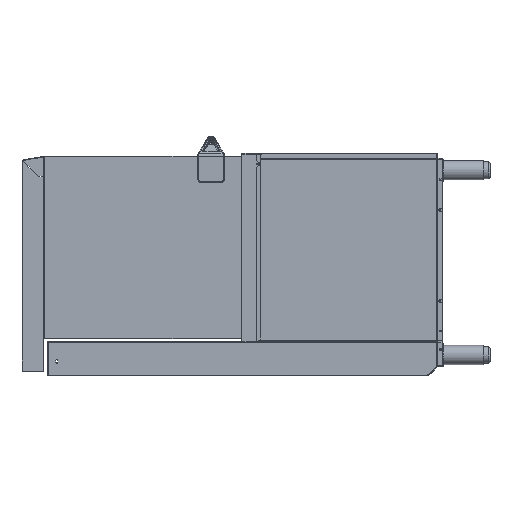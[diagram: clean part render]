
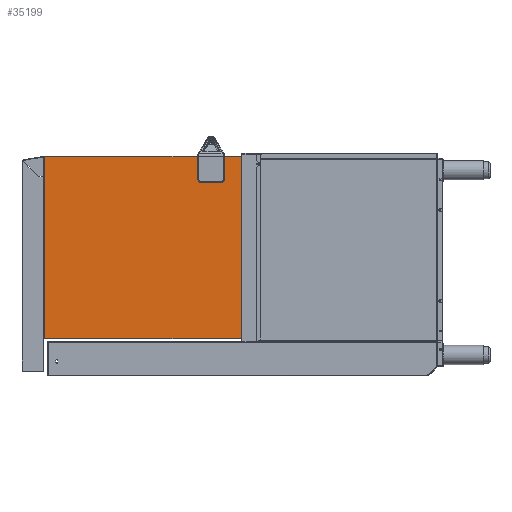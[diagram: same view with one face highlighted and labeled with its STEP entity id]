
A CAD part, left-side view. The second image highlights one B-rep face of the part: STEP entity #35199.
In plain terms, the highlighted planar face has unit normal (-1, 0, 0).
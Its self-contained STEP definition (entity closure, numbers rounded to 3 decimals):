
#2536 = ORIENTED_EDGE ( 'NONE', *, *, #76650, .T. ) ;
#4416 = EDGE_LOOP ( 'NONE', ( #2536, #29096 ) ) ;
#5409 = CARTESIAN_POINT ( 'NONE',  ( -300.2, 342.5, 1. ) ) ;
#5450 = ORIENTED_EDGE ( 'NONE', *, *, #77820, .T. ) ;
#5496 = DIRECTION ( 'NONE',  ( 0., 0., -1. ) ) ;
#5895 = CARTESIAN_POINT ( 'NONE',  ( -300.2, 242.482, 81.5 ) ) ;
#6038 = CARTESIAN_POINT ( 'NONE',  ( -300.2, 342.5, 1. ) ) ;
#6150 = FACE_BOUND ( 'NONE', #77677, .T. ) ;
#6318 = ORIENTED_EDGE ( 'NONE', *, *, #76645, .T. ) ;
#6690 = EDGE_LOOP ( 'NONE', ( #41492, #78496 ) ) ;
#6788 = FACE_BOUND ( 'NONE', #12348, .T. ) ;
#6863 = FACE_BOUND ( 'NONE', #6690, .T. ) ;
#6925 = FACE_BOUND ( 'NONE', #4416, .T. ) ;
#7006 = FACE_OUTER_BOUND ( 'NONE', #50923, .T. ) ;
#7241 = VERTEX_POINT ( 'NONE', #80806 ) ;
#7703 = AXIS2_PLACEMENT_3D ( 'NONE', #45130, #45047, #44927 ) ;
#9492 = VERTEX_POINT ( 'NONE', #59310 ) ;
#11157 = CIRCLE ( 'NONE', #7703, 7.5 ) ;
#11629 = VERTEX_POINT ( 'NONE', #52185 ) ;
#11929 = AXIS2_PLACEMENT_3D ( 'NONE', #58004, #57825, #53192 ) ;
#12348 = EDGE_LOOP ( 'NONE', ( #6318, #73065 ) ) ;
#13386 = DIRECTION ( 'NONE',  ( 0., 0., -1. ) ) ;
#13473 = DIRECTION ( 'NONE',  ( 1., 0., 0. ) ) ;
#13672 = PLANE ( 'NONE',  #46553 ) ;
#13696 = CARTESIAN_POINT ( 'NONE',  ( -300.2, 342.5, 601.5 ) ) ;
#16587 = CARTESIAN_POINT ( 'NONE',  ( -300.2, 177.482, 24. ) ) ;
#17739 = DIRECTION ( 'NONE',  ( 0., 0., -1. ) ) ;
#17937 = DIRECTION ( 'NONE',  ( 1., 0., 0. ) ) ;
#18023 = CARTESIAN_POINT ( 'NONE',  ( -300.2, 242.482, 74. ) ) ;
#20665 = VERTEX_POINT ( 'NONE', #25254 ) ;
#22225 = VERTEX_POINT ( 'NONE', #42655 ) ;
#22485 = DIRECTION ( 'NONE',  ( 0., 0., -1. ) ) ;
#23032 = CARTESIAN_POINT ( 'NONE',  ( -300.2, 177.482, 31.5 ) ) ;
#23116 = ORIENTED_EDGE ( 'NONE', *, *, #77023, .T. ) ;
#24515 = CARTESIAN_POINT ( 'NONE',  ( -300.2, -342.5, 1. ) ) ;
#25254 = CARTESIAN_POINT ( 'NONE',  ( -300.2, -340.5, 2. ) ) ;
#27615 = DIRECTION ( 'NONE',  ( 0., 1., 0. ) ) ;
#27824 = CARTESIAN_POINT ( 'NONE',  ( -300.2, -340.5, 601.5 ) ) ;
#28062 = VECTOR ( 'NONE', #39682, 1000. ) ;
#28067 = DIRECTION ( 'NONE',  ( 0., 0., -1. ) ) ;
#28133 = CARTESIAN_POINT ( 'NONE',  ( -300.2, -340.5, 601.3 ) ) ;
#28279 = CARTESIAN_POINT ( 'NONE',  ( -300.2, -340.5, 601.5 ) ) ;
#28560 = LINE ( 'NONE', #39901, #28062 ) ;
#28877 = ORIENTED_EDGE ( 'NONE', *, *, #77360, .T. ) ;
#29096 = ORIENTED_EDGE ( 'NONE', *, *, #32860, .T. ) ;
#30206 = EDGE_CURVE ( 'NONE', #69650, #7241, #61163, .T. ) ;
#31058 = EDGE_CURVE ( 'NONE', #9492, #37305, #11157, .T. ) ;
#32271 = ORIENTED_EDGE ( 'NONE', *, *, #65740, .F. ) ;
#32860 = EDGE_CURVE ( 'NONE', #22225, #67593, #82429, .T. ) ;
#33325 = EDGE_CURVE ( 'NONE', #61411, #58622, #69413, .T. ) ;
#35199 = ADVANCED_FACE ( 'NONE', ( #6863, #6788, #6925, #6150, #7006 ), #13672, .F. ) ;
#36927 = CARTESIAN_POINT ( 'NONE',  ( -300.2, 342.5, 2. ) ) ;
#37305 = VERTEX_POINT ( 'NONE', #16587 ) ;
#37923 = CARTESIAN_POINT ( 'NONE',  ( -300.2, 177.482, 81.5 ) ) ;
#39254 = VERTEX_POINT ( 'NONE', #36927 ) ;
#39682 = DIRECTION ( 'NONE',  ( 0., 1., 0. ) ) ;
#39816 = ORIENTED_EDGE ( 'NONE', *, *, #77851, .T. ) ;
#39901 = CARTESIAN_POINT ( 'NONE',  ( -300.2, -342.5, 2. ) ) ;
#40268 = CARTESIAN_POINT ( 'NONE',  ( -300.2, 242.482, 24. ) ) ;
#41185 = DIRECTION ( 'NONE',  ( 0., 0., 1. ) ) ;
#41263 = CARTESIAN_POINT ( 'NONE',  ( -300.2, -340.5, 2. ) ) ;
#41492 = ORIENTED_EDGE ( 'NONE', *, *, #76538, .T. ) ;
#42655 = CARTESIAN_POINT ( 'NONE',  ( -300.2, 242.482, 39. ) ) ;
#44140 = DIRECTION ( 'NONE',  ( 0., 0., -1. ) ) ;
#44246 = DIRECTION ( 'NONE',  ( 1., 0., 0. ) ) ;
#44319 = CARTESIAN_POINT ( 'NONE',  ( -300.2, 242.482, 74. ) ) ;
#44927 = DIRECTION ( 'NONE',  ( 0., 0., -1. ) ) ;
#45047 = DIRECTION ( 'NONE',  ( 1., 0., 0. ) ) ;
#45130 = CARTESIAN_POINT ( 'NONE',  ( -300.2, 177.482, 31.5 ) ) ;
#46553 = AXIS2_PLACEMENT_3D ( 'NONE', #24515, #13473, #13386 ) ;
#50103 = CARTESIAN_POINT ( 'NONE',  ( -300.2, 242.482, 66.5 ) ) ;
#50923 = EDGE_LOOP ( 'NONE', ( #51000, #81378, #28877, #5450, #39816, #32271 ) ) ;
#51000 = ORIENTED_EDGE ( 'NONE', *, *, #77120, .T. ) ;
#52185 = CARTESIAN_POINT ( 'NONE',  ( -300.2, -340.5, 601.5 ) ) ;
#52835 = DIRECTION ( 'NONE',  ( 0., 0., -1. ) ) ;
#52863 = DIRECTION ( 'NONE',  ( 1., 0., 0. ) ) ;
#52941 = CARTESIAN_POINT ( 'NONE',  ( -300.2, 242.482, 31.5 ) ) ;
#53192 = DIRECTION ( 'NONE',  ( 0., 0., -1. ) ) ;
#54243 = VECTOR ( 'NONE', #5496, 1000. ) ;
#54694 = VECTOR ( 'NONE', #22485, 1000. ) ;
#54762 = LINE ( 'NONE', #5409, #54243 ) ;
#54855 = LINE ( 'NONE', #6038, #54694 ) ;
#57825 = DIRECTION ( 'NONE',  ( 1., 0., 0. ) ) ;
#58004 = CARTESIAN_POINT ( 'NONE',  ( -300.2, 177.482, 74. ) ) ;
#58622 = VERTEX_POINT ( 'NONE', #50103 ) ;
#58963 = VECTOR ( 'NONE', #27615, 1000. ) ;
#59093 = VECTOR ( 'NONE', #28067, 1000. ) ;
#59310 = CARTESIAN_POINT ( 'NONE',  ( -300.2, 177.482, 39. ) ) ;
#59325 = LINE ( 'NONE', #27824, #58963 ) ;
#59944 = LINE ( 'NONE', #28279, #59093 ) ;
#61163 = CIRCLE ( 'NONE', #11929, 7.5 ) ;
#61411 = VERTEX_POINT ( 'NONE', #5895 ) ;
#62096 = ORIENTED_EDGE ( 'NONE', *, *, #33325, .T. ) ;
#62173 = DIRECTION ( 'NONE',  ( 0., 0., -1. ) ) ;
#62283 = DIRECTION ( 'NONE',  ( 1., 0., 0. ) ) ;
#62300 = CARTESIAN_POINT ( 'NONE',  ( -300.2, 242.482, 31.5 ) ) ;
#62578 = DIRECTION ( 'NONE',  ( 0., 0., -1. ) ) ;
#62588 = DIRECTION ( 'NONE',  ( 1., 0., 0. ) ) ;
#62704 = VERTEX_POINT ( 'NONE', #13696 ) ;
#62883 = VECTOR ( 'NONE', #41185, 1000. ) ;
#63042 = LINE ( 'NONE', #41263, #62883 ) ;
#63658 = CIRCLE ( 'NONE', #65498, 7.5 ) ;
#65498 = AXIS2_PLACEMENT_3D ( 'NONE', #44319, #44246, #44140 ) ;
#65740 = EDGE_CURVE ( 'NONE', #20665, #39254, #28560, .T. ) ;
#66956 = AXIS2_PLACEMENT_3D ( 'NONE', #62300, #62283, #62173 ) ;
#67104 = AXIS2_PLACEMENT_3D ( 'NONE', #23032, #62588, #62578 ) ;
#67445 = CIRCLE ( 'NONE', #67104, 7.5 ) ;
#67531 = CIRCLE ( 'NONE', #66956, 7.5 ) ;
#67568 = AXIS2_PLACEMENT_3D ( 'NONE', #73839, #73822, #73604 ) ;
#67593 = VERTEX_POINT ( 'NONE', #40268 ) ;
#69100 = CIRCLE ( 'NONE', #67568, 7.5 ) ;
#69413 = CIRCLE ( 'NONE', #76901, 7.5 ) ;
#69650 = VERTEX_POINT ( 'NONE', #37923 ) ;
#70979 = VERTEX_POINT ( 'NONE', #74846 ) ;
#71971 = VERTEX_POINT ( 'NONE', #28133 ) ;
#73065 = ORIENTED_EDGE ( 'NONE', *, *, #31058, .T. ) ;
#73604 = DIRECTION ( 'NONE',  ( 0., 0., -1. ) ) ;
#73822 = DIRECTION ( 'NONE',  ( 1., 0., 0. ) ) ;
#73839 = CARTESIAN_POINT ( 'NONE',  ( -300.2, 177.482, 74. ) ) ;
#74846 = CARTESIAN_POINT ( 'NONE',  ( -300.2, 342.5, 571.3 ) ) ;
#76538 = EDGE_CURVE ( 'NONE', #7241, #69650, #69100, .T. ) ;
#76645 = EDGE_CURVE ( 'NONE', #37305, #9492, #67445, .T. ) ;
#76650 = EDGE_CURVE ( 'NONE', #67593, #22225, #67531, .T. ) ;
#76901 = AXIS2_PLACEMENT_3D ( 'NONE', #18023, #17937, #17739 ) ;
#77023 = EDGE_CURVE ( 'NONE', #58622, #61411, #63658, .T. ) ;
#77120 = EDGE_CURVE ( 'NONE', #20665, #71971, #63042, .T. ) ;
#77351 = EDGE_CURVE ( 'NONE', #11629, #71971, #59944, .T. ) ;
#77360 = EDGE_CURVE ( 'NONE', #11629, #62704, #59325, .T. ) ;
#77677 = EDGE_LOOP ( 'NONE', ( #23116, #62096 ) ) ;
#77820 = EDGE_CURVE ( 'NONE', #62704, #70979, #54855, .T. ) ;
#77851 = EDGE_CURVE ( 'NONE', #70979, #39254, #54762, .T. ) ;
#78496 = ORIENTED_EDGE ( 'NONE', *, *, #30206, .T. ) ;
#80806 = CARTESIAN_POINT ( 'NONE',  ( -300.2, 177.482, 66.5 ) ) ;
#81378 = ORIENTED_EDGE ( 'NONE', *, *, #77351, .F. ) ;
#82231 = AXIS2_PLACEMENT_3D ( 'NONE', #52941, #52863, #52835 ) ;
#82429 = CIRCLE ( 'NONE', #82231, 7.5 ) ;
